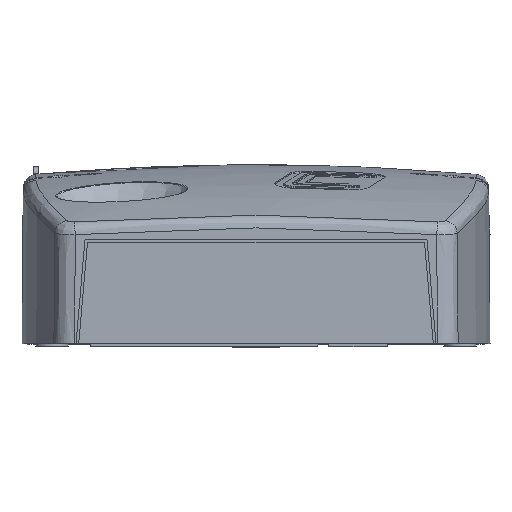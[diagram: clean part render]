
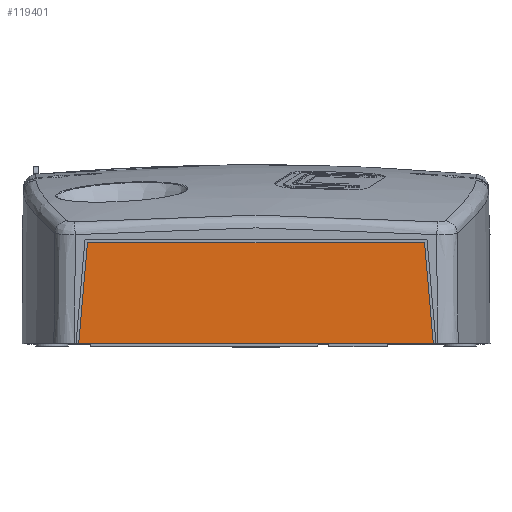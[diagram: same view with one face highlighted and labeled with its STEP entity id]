
A CAD part, top view. The second image highlights one B-rep face of the part: STEP entity #119401.
In plain terms, the highlighted planar face has unit normal (0, 0.009, 1).
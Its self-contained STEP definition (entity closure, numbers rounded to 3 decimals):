
#41279=DIRECTION('',(-1.,0.,0.));
#41280=VECTOR('',#41279,130.323);
#41281=CARTESIAN_POINT('',(65.162,0.,181.2));
#41282=LINE('',#41281,#41280);
#41479=DIRECTION('',(-0.087,-0.996,0.009));
#41480=VECTOR('',#41479,37.133);
#41481=CARTESIAN_POINT('',(-61.925,36.99,
180.877));
#41482=LINE('',#41481,#41480);
#41503=DIRECTION('',(-0.087,0.996,-0.009));
#41504=VECTOR('',#41503,37.133);
#41505=CARTESIAN_POINT('',(65.162,0.,181.2));
#41506=LINE('',#41505,#41504);
#41511=DIRECTION('',(-1.,0.,0.));
#41512=VECTOR('',#41511,123.851);
#41513=CARTESIAN_POINT('',(61.925,36.99,180.877));
#41514=LINE('',#41513,#41512);
#72202=CARTESIAN_POINT('',(65.162,0.,181.2));
#72203=CARTESIAN_POINT('',(-65.162,0.,181.2));
#72204=VERTEX_POINT('',#72202);
#72205=VERTEX_POINT('',#72203);
#72206=CARTESIAN_POINT('',(61.925,36.99,180.877));
#72207=VERTEX_POINT('',#72206);
#72208=CARTESIAN_POINT('',(-61.925,36.99,
180.877));
#72209=VERTEX_POINT('',#72208);
#119387=CARTESIAN_POINT('',(0.,31.404,180.926));
#119388=DIRECTION('',(0.,0.009,1.));
#119389=DIRECTION('',(-1.,0.,0.));
#119390=AXIS2_PLACEMENT_3D('',#119387,#119388,#119389);
#119391=PLANE('',#119390);
#119392=ORIENTED_EDGE('',*,*,#119323,.T.);
#119394=ORIENTED_EDGE('',*,*,#119393,.F.);
#119396=ORIENTED_EDGE('',*,*,#119395,.F.);
#119398=ORIENTED_EDGE('',*,*,#119397,.F.);
#119399=EDGE_LOOP('',(#119392,#119394,#119396,#119398));
#119400=FACE_OUTER_BOUND('',#119399,.F.);
#119323=EDGE_CURVE('',#72204,#72205,#41282,.T.);
#119393=EDGE_CURVE('',#72209,#72205,#41482,.T.);
#119395=EDGE_CURVE('',#72207,#72209,#41514,.T.);
#119397=EDGE_CURVE('',#72204,#72207,#41506,.T.);
#119401=ADVANCED_FACE('',(#119400),#119391,.T.);
